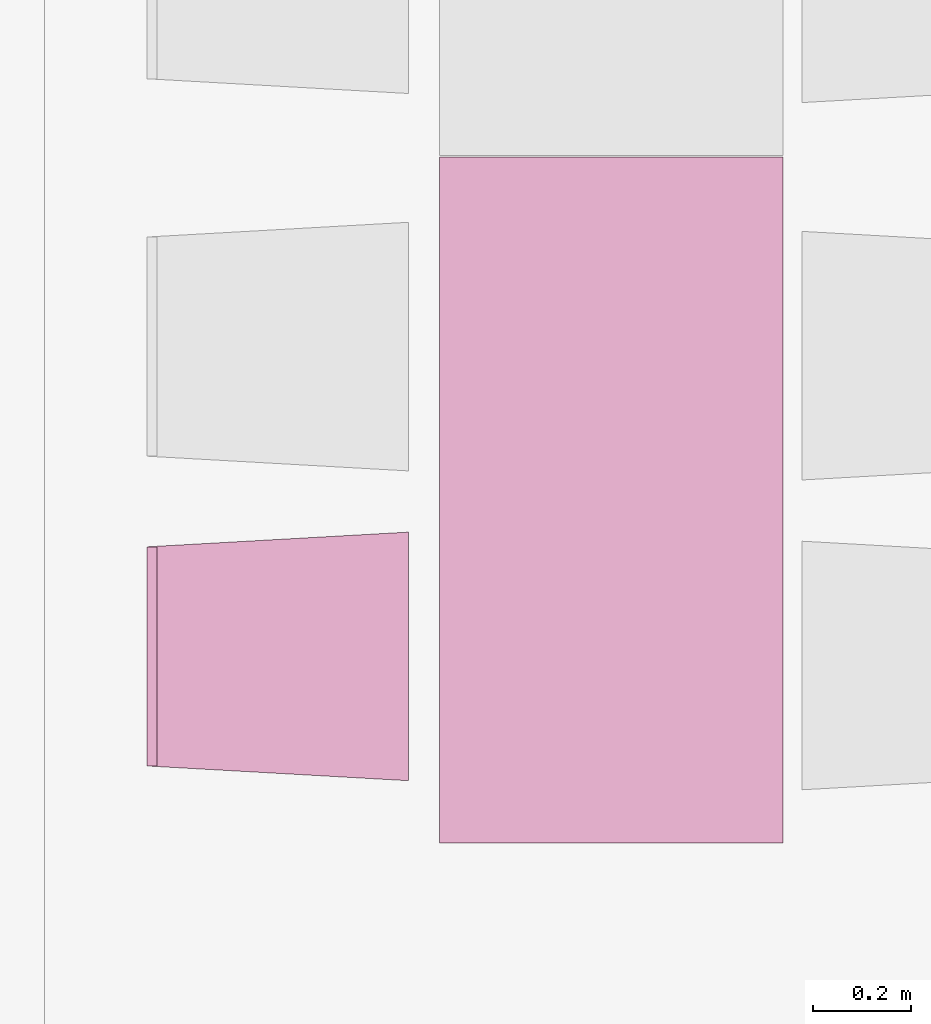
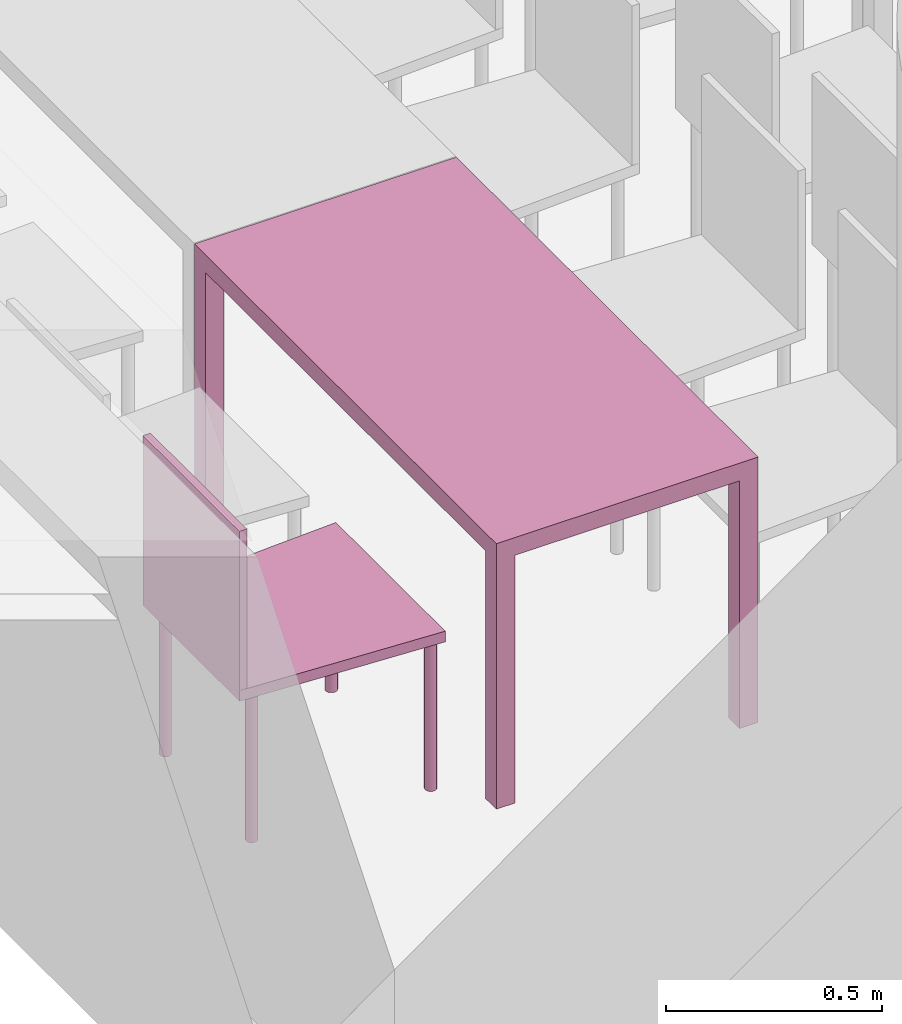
"""IFC4 building model written with IfcOpenShell, lengths in metres."""

from ifc_helpers import new_model, entity, si_unit, converted_unit, derived_unit, frame, origin, place, context, subcontext, project, spatial, faceted_brep, element, save


model = new_model("IFC4")

# Units and contexts
model_context = context("Model", 3, precision=1e-05, world=origin())
body_context = subcontext(model_context, "Body", "Model", "MODEL_VIEW")
ifc_project = project(units=[si_unit("LENGTHUNIT", "METRE"), si_unit("AREAUNIT", "SQUARE_METRE"), si_unit("VOLUMEUNIT", "CUBIC_METRE"), si_unit("MASSUNIT", "GRAM", prefix="KILO"), converted_unit("PLANEANGLEUNIT", "DEGREE", entity("IfcPlaneAngleMeasure", 0.0174532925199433), si_unit("PLANEANGLEUNIT", "RADIAN"), dimensions=[0, 0, 0, 0, 0, 0, 0]), derived_unit("THERMALTRANSMITTANCEUNIT", [(si_unit("POWERUNIT", "WATT"), 1), (si_unit("THERMODYNAMICTEMPERATUREUNIT", "KELVIN"), -1), (si_unit("LENGTHUNIT", "METRE"), -2)]), derived_unit("VOLUMETRICFLOWRATEUNIT", [(si_unit("LENGTHUNIT", "METRE"), 3), (converted_unit("TIMEUNIT", "hour", entity("IfcTimeMeasure", 3600.0), si_unit("TIMEUNIT", "SECOND"), dimensions=[0, 0, 1, 0, 0, 0, 0]), -1), (si_unit("LENGTHUNIT", "METRE"), -1)])], contexts=[model_context])

# Building, storeys
building_placement = place(None, origin())
building = spatial("IfcBuilding", under=ifc_project, at=building_placement, Name="HABITATGE PLURIFAMILIAR", CompositionType="ELEMENT")
storey_1_placement = place(building_placement, frame((0.0, 0.0, 3.35)))
storey_1 = spatial("IfcBuildingStorey", under=building, at=storey_1_placement, Name="PLANTA  ALTELL", CompositionType="ELEMENT", Elevation=3.35)
storey_2_placement = place(storey_1_placement, origin())
storey_2 = spatial("IfcBuildingStorey", under=storey_1, at=storey_2_placement, Name="NOU", CompositionType="PARTIAL")

# Furniture
furniture_1_placement = place(storey_2_placement, frame((399.981918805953, 14.1626455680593, 0.05)))
element("IfcFurniture", 1, at=furniture_1_placement, inside=storey_2, Name="Taula 140X80_PA", context=body_context, shape_type="Brep", body=[
    faceted_brep([(0.7, 0.0500000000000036, 0.0), (0.65, 0.0500000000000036, 0.0), (0.65, 0.0, 0.0), (0.7, 0.0, 0.0), (0.65, 0.0500000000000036, 0.7), (0.7, 0.0500000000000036, 0.7), (0.7, 0.0, 0.7), (0.65, 0.0, 0.7)], [[[0, 1, 2, 3]], [[4, 5, 6, 7]], [[1, 0, 5, 4]], [[2, 1, 4, 7]], [[3, 2, 7, 6]], [[0, 3, 6, 5]]], orient=[[False], [False], [False], [False], [False], [False]]),
    faceted_brep([(0.7, 1.39694592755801, 0.0), (0.65, 1.39694592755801, 0.0), (0.65, 1.34694592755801, 0.0), (0.7, 1.34694592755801, 0.0), (0.65, 1.39694592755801, 0.7), (0.7, 1.39694592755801, 0.7), (0.7, 1.34694592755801, 0.7), (0.65, 1.34694592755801, 0.7)], [[[0, 1, 2, 3]], [[4, 5, 6, 7]], [[1, 0, 5, 4]], [[2, 1, 4, 7]], [[3, 2, 7, 6]], [[0, 3, 6, 5]]], orient=[[False], [False], [False], [False], [False], [False]]),
    faceted_brep([(0.7, 1.396945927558, 0.7), (0.0, 1.396945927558, 0.7), (0.0, 0.0, 0.7), (0.7, 0.0, 0.7), (0.0, 1.396945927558, 0.75), (0.7, 1.396945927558, 0.75), (0.7, 0.0, 0.75), (0.0, 0.0, 0.75)], [[[0, 1, 2, 3]], [[4, 5, 6, 7]], [[1, 0, 5, 4]], [[2, 1, 4, 7]], [[3, 2, 7, 6]], [[0, 3, 6, 5]]], orient=[[False], [False], [False], [False], [False], [False]]),
    faceted_brep([(0.05, 0.05, 0.0), (0.0, 0.05, 0.0), (0.0, 0.0, 0.0), (0.05, 0.0, 0.0), (0.0, 0.05, 0.7), (0.05, 0.05, 0.7), (0.05, 0.0, 0.7), (0.0, 0.0, 0.7)], [[[0, 1, 2, 3]], [[4, 5, 6, 7]], [[1, 0, 5, 4]], [[2, 1, 4, 7]], [[3, 2, 7, 6]], [[0, 3, 6, 5]]], orient=[[False], [False], [False], [False], [False], [False]]),
    faceted_brep([(0.05, 1.396945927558, 0.0), (0.0, 1.396945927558, 0.0), (0.0, 1.346945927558, 0.0), (0.05, 1.346945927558, 0.0), (0.0, 1.396945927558, 0.7), (0.05, 1.396945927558, 0.7), (0.05, 1.346945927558, 0.7), (0.0, 1.346945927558, 0.7)], [[[0, 1, 2, 3]], [[4, 5, 6, 7]], [[1, 0, 5, 4]], [[2, 1, 4, 7]], [[3, 2, 7, 6]], [[0, 3, 6, 5]]], orient=[[False], [False], [False], [False], [False], [False]]),
])
furniture_2_placement = place(storey_2_placement, frame((399.386206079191, 14.2892329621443, 0.0499839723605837)))
element("IfcFurniture", 2, at=furniture_2_placement, inside=storey_2, Name="Cadira confident_PA", context=body_context, shape_type="Brep", body=[
    faceted_brep([(0.507575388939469, 0.0391636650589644, 0.0), (0.504980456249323, 0.0389479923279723, 0.0), (0.502462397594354, 0.0382849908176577, 0.0), (0.500097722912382, 0.0371948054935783, 0.0), (0.497958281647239, 0.0357105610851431, 0.0), (0.496109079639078, 0.0338773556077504, 0.0), (0.494606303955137, 0.0317508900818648, 0.0), (0.493495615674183, 0.0293957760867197, 0.0), (0.492810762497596, 0.0268835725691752, 0.0), (0.492572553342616, 0.0242906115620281, 0.0), (0.492788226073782, 0.0216956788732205, 0.0), (0.493451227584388, 0.019177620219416, 0.0), (0.494541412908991, 0.0168129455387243, 0.0), (0.496025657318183, 0.0146735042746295, 0.0), (0.497858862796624, 0.0128243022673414, 0.0), (0.499985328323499, 0.0113215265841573, 0.0), (0.502340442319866, 0.0102108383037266, 0.0), (0.504852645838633, 0.00952598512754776, 0.0), (0.507445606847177, 0.00928777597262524, 0.0), (0.510040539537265, 0.00950344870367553, 0.0), (0.512558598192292, 0.010166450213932, 0.0), (0.514923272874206, 0.0112566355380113, 0.0), (0.517062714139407, 0.0127408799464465, 0.0), (0.518911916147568, 0.0145740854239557, 0.0), (0.520414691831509, 0.0167005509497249, 0.0), (0.521525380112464, 0.0190556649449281, 0.0), (0.52221023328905, 0.0215678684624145, 0.0), (0.522448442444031, 0.0241608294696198, 0.0), (0.522232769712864, 0.0267557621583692, 0.0), (0.521569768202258, 0.0292738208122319, 0.0), (0.520479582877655, 0.0316384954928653, 0.0), (0.518995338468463, 0.0337779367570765, 0.0), (0.517162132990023, 0.0356271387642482, 0.0), (0.515035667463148, 0.0371299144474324, 0.0), (0.51268055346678, 0.038240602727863, 0.0), (0.510168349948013, 0.0389254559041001, 0.0), (0.507575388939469, 0.0391636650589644, 0.448281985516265), (0.510168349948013, 0.0389254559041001, 0.448281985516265), (0.51268055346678, 0.038240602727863, 0.448281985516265), (0.515035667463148, 0.0371299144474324, 0.448281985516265), (0.517162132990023, 0.0356271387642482, 0.448281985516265), (0.518995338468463, 0.0337779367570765, 0.448281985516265), (0.520479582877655, 0.0316384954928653, 0.448281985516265), (0.521569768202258, 0.0292738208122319, 0.448281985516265), (0.522232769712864, 0.0267557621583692, 0.448281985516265), (0.522448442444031, 0.0241608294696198, 0.448281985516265), (0.52221023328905, 0.0215678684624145, 0.448281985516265), (0.521525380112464, 0.0190556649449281, 0.448281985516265), (0.520414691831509, 0.0167005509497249, 0.448281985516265), (0.518911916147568, 0.0145740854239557, 0.448281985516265), (0.517062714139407, 0.0127408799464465, 0.448281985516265), (0.514923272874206, 0.0112566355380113, 0.448281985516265), (0.512558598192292, 0.010166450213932, 0.448281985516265), (0.510040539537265, 0.00950344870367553, 0.448281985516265), (0.507445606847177, 0.00928777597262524, 0.448281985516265), (0.504852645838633, 0.00952598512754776, 0.448281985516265), (0.502340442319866, 0.0102108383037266, 0.448281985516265), (0.499985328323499, 0.0113215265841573, 0.448281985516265), (0.497858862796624, 0.0128243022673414, 0.448281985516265), (0.496025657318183, 0.0146735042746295, 0.448281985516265), (0.494541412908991, 0.0168129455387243, 0.448281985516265), (0.493451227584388, 0.019177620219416, 0.448281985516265), (0.492788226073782, 0.0216956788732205, 0.448281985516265), (0.492572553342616, 0.0242906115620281, 0.448281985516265), (0.492810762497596, 0.0268835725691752, 0.448281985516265), (0.493495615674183, 0.0293957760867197, 0.448281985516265), (0.494606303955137, 0.0317508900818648, 0.448281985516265), (0.496109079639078, 0.0338773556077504, 0.448281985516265), (0.497958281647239, 0.0357105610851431, 0.448281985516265), (0.500097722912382, 0.0371948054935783, 0.448281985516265), (0.502462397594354, 0.0382849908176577, 0.448281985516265), (0.504980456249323, 0.0389479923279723, 0.448281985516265)], [[[0, 1, 2, 3, 4, 5, 6, 7, 8, 9, 10, 11, 12, 13, 14, 15, 16, 17, 18, 19, 20, 21, 22, 23, 24, 25, 26, 27, 28, 29, 30, 31, 32, 33, 34, 35]], [[36, 37, 38, 39, 40, 41, 42, 43, 44, 45, 46, 47, 48, 49, 50, 51, 52, 53, 54, 55, 56, 57, 58, 59, 60, 61, 62, 63, 64, 65, 66, 67, 68, 69, 70, 71]], [[1, 0, 36, 71]], [[2, 1, 71, 70]], [[3, 2, 70, 69]], [[4, 3, 69, 68]], [[5, 4, 68, 67]], [[6, 5, 67, 66]], [[7, 6, 66, 65]], [[8, 7, 65, 64]], [[9, 8, 64, 63]], [[10, 9, 63, 62]], [[11, 10, 62, 61]], [[12, 11, 61, 60]], [[13, 12, 60, 59]], [[14, 13, 59, 58]], [[15, 14, 58, 57]], [[16, 15, 57, 56]], [[17, 16, 56, 55]], [[18, 17, 55, 54]], [[19, 18, 54, 53]], [[20, 19, 53, 52]], [[21, 20, 52, 51]], [[22, 21, 51, 50]], [[23, 22, 50, 49]], [[24, 23, 49, 48]], [[25, 24, 48, 47]], [[26, 25, 47, 46]], [[27, 26, 46, 45]], [[28, 27, 45, 44]], [[29, 28, 44, 43]], [[30, 29, 43, 42]], [[31, 30, 42, 41]], [[32, 31, 41, 40]], [[33, 32, 40, 39]], [[34, 33, 39, 38]], [[35, 34, 38, 37]], [[0, 35, 37, 36]]], orient=[[False], [False], [False], [False], [False], [False], [False], [False], [False], [False], [False], [False], [False], [False], [False], [False], [False], [False], [False], [False], [False], [False], [False], [False], [False], [False], [False], [False], [False], [False], [False], [False], [False], [False], [False], [False], [False], [False]]),
    faceted_brep([(0.0451683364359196, 0.0668016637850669, 0.0), (0.0425734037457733, 0.0665859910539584, 0.0), (0.0400553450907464, 0.065922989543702, 0.0), (0.0376906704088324, 0.0648328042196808, 0.0), (0.0355512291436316, 0.0633485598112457, 0.0), (0.0337020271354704, 0.0615153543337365, 0.0), (0.0321992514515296, 0.0593888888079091, 0.0), (0.0310885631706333, 0.057033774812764, 0.0), (0.0304037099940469, 0.0545215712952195, 0.0), (0.030165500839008, 0.0519286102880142, 0.0), (0.0303811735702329, 0.0493336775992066, 0.0), (0.0310441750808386, 0.0468156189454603, 0.0), (0.0321343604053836, 0.0444509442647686, 0.0), (0.0336186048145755, 0.0423115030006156, 0.0), (0.035451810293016, 0.0404623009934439, 0.0), (0.0375782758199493, 0.0389595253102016, 0.0), (0.0399333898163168, 0.0378488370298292, 0.0), (0.0424455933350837, 0.0371639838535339, 0.0), (0.0450385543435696, 0.0369257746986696, 0.0), (0.0476334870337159, 0.0371414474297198, 0.0), (0.0501515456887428, 0.0378044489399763, 0.0), (0.0525162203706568, 0.0388946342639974, 0.0), (0.0546556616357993, 0.0403788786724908, 0.0), (0.0565048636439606, 0.0422120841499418, 0.0), (0.0580076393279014, 0.0443385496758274, 0.0), (0.0591183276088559, 0.0466936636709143, 0.0), (0.0598031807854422, 0.0492058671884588, 0.0), (0.060041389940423, 0.0517988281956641, 0.0), (0.0598257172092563, 0.0543937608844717, 0.0), (0.0591627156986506, 0.056911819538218, 0.0), (0.0580725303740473, 0.0592764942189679, 0.0), (0.0565882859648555, 0.0614159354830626, 0.0), (0.054755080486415, 0.0632651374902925, 0.0), (0.0526286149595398, 0.0647679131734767, 0.0), (0.0502735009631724, 0.0658786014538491, 0.0), (0.0477612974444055, 0.0665634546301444, 0.0), (0.0451683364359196, 0.0668016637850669, 0.448281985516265), (0.0477612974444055, 0.0665634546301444, 0.448281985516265), (0.0502735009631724, 0.0658786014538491, 0.448281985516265), (0.0526286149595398, 0.0647679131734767, 0.448281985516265), (0.054755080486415, 0.0632651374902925, 0.448281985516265), (0.0565882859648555, 0.0614159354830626, 0.448281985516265), (0.0580725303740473, 0.0592764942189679, 0.448281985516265), (0.0591627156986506, 0.056911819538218, 0.448281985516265), (0.0598257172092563, 0.0543937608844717, 0.448281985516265), (0.060041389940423, 0.0517988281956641, 0.448281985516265), (0.0598031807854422, 0.0492058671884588, 0.448281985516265), (0.0591183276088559, 0.0466936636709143, 0.448281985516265), (0.0580076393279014, 0.0443385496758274, 0.448281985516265), (0.0565048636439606, 0.0422120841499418, 0.448281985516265), (0.0546556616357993, 0.0403788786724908, 0.448281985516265), (0.0525162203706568, 0.0388946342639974, 0.448281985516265), (0.0501515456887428, 0.0378044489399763, 0.448281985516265), (0.0476334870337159, 0.0371414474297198, 0.448281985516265), (0.0450385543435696, 0.0369257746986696, 0.448281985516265), (0.0424455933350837, 0.0371639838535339, 0.448281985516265), (0.0399333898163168, 0.0378488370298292, 0.448281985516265), (0.0375782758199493, 0.0389595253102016, 0.448281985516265), (0.035451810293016, 0.0404623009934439, 0.448281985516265), (0.0336186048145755, 0.0423115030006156, 0.448281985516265), (0.0321343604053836, 0.0444509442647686, 0.448281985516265), (0.0310441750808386, 0.0468156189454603, 0.448281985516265), (0.0303811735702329, 0.0493336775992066, 0.448281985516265), (0.030165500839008, 0.0519286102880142, 0.448281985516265), (0.0304037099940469, 0.0545215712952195, 0.448281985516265), (0.0310885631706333, 0.057033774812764, 0.448281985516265), (0.0321992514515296, 0.0593888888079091, 0.448281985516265), (0.0337020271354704, 0.0615153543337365, 0.448281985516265), (0.0355512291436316, 0.0633485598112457, 0.448281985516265), (0.0376906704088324, 0.0648328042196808, 0.448281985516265), (0.0400553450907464, 0.065922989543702, 0.448281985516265), (0.0425734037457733, 0.0665859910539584, 0.448281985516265)], [[[0, 1, 2, 3, 4, 5, 6, 7, 8, 9, 10, 11, 12, 13, 14, 15, 16, 17, 18, 19, 20, 21, 22, 23, 24, 25, 26, 27, 28, 29, 30, 31, 32, 33, 34, 35]], [[36, 37, 38, 39, 40, 41, 42, 43, 44, 45, 46, 47, 48, 49, 50, 51, 52, 53, 54, 55, 56, 57, 58, 59, 60, 61, 62, 63, 64, 65, 66, 67, 68, 69, 70, 71]], [[1, 0, 36, 71]], [[2, 1, 71, 70]], [[3, 2, 70, 69]], [[4, 3, 69, 68]], [[5, 4, 68, 67]], [[6, 5, 67, 66]], [[7, 6, 66, 65]], [[8, 7, 65, 64]], [[9, 8, 64, 63]], [[10, 9, 63, 62]], [[11, 10, 62, 61]], [[12, 11, 61, 60]], [[13, 12, 60, 59]], [[14, 13, 59, 58]], [[15, 14, 58, 57]], [[16, 15, 57, 56]], [[17, 16, 56, 55]], [[18, 17, 55, 54]], [[19, 18, 54, 53]], [[20, 19, 53, 52]], [[21, 20, 52, 51]], [[22, 21, 51, 50]], [[23, 22, 50, 49]], [[24, 23, 49, 48]], [[25, 24, 48, 47]], [[26, 25, 47, 46]], [[27, 26, 46, 45]], [[28, 27, 45, 44]], [[29, 28, 44, 43]], [[30, 29, 43, 42]], [[31, 30, 42, 41]], [[32, 31, 41, 40]], [[33, 32, 40, 39]], [[34, 33, 39, 38]], [[35, 34, 38, 37]], [[0, 35, 37, 36]]], orient=[[False], [False], [False], [False], [False], [False], [False], [False], [False], [False], [False], [False], [False], [False], [False], [False], [False], [False], [False], [False], [False], [False], [False], [False], [False], [False], [False], [False], [False], [False], [False], [False], [False], [False], [False], [False], [False], [False]]),
    faceted_brep([(0.50757538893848, 0.499163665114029, 0.0), (0.504980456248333, 0.49894799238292, 0.0), (0.502462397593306, 0.498284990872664, 0.0), (0.500097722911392, 0.497194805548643, 0.0), (0.49795828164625, 0.495710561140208, 0.0), (0.49610907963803, 0.493877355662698, 0.0), (0.494606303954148, 0.491750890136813, 0.0), (0.493495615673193, 0.489395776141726, 0.0), (0.492810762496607, 0.486883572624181, 0.0), (0.492572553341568, 0.484290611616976, 0.0), (0.492788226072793, 0.481695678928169, 0.0), (0.493451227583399, 0.479177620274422, 0.0), (0.494541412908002, 0.476812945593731, 0.0), (0.496025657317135, 0.474673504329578, 0.0), (0.497858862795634, 0.472824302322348, 0.0), (0.499985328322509, 0.471321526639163, 0.0), (0.502340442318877, 0.470210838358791, 0.0), (0.504852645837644, 0.469525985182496, 0.0), (0.507445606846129, 0.469287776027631, 0.0), (0.510040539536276, 0.469503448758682, 0.0), (0.512558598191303, 0.470166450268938, 0.0), (0.514923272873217, 0.471256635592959, 0.0), (0.517062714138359, 0.472740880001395, 0.0), (0.518911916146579, 0.474574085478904, 0.0), (0.520414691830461, 0.476700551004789, 0.0), (0.521525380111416, 0.479055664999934, 0.0), (0.522210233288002, 0.481567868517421, 0.0), (0.522448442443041, 0.484160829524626, 0.0), (0.522232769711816, 0.486755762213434, 0.0), (0.521569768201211, 0.489273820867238, 0.0), (0.520479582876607, 0.491638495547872, 0.0), (0.518995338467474, 0.493777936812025, 0.0), (0.517162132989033, 0.495627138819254, 0.0), (0.5150356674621, 0.497129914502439, 0.0), (0.512680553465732, 0.498240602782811, 0.0), (0.510168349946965, 0.498925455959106, 0.0), (0.50757538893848, 0.499163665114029, 0.448281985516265), (0.510168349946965, 0.498925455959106, 0.448281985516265), (0.512680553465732, 0.498240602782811, 0.448281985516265), (0.5150356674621, 0.497129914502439, 0.448281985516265), (0.517162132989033, 0.495627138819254, 0.448281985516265), (0.518995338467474, 0.493777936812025, 0.448281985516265), (0.520479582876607, 0.491638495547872, 0.448281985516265), (0.521569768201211, 0.489273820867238, 0.448281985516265), (0.522232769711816, 0.486755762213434, 0.448281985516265), (0.522448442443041, 0.484160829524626, 0.448281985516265), (0.522210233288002, 0.481567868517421, 0.448281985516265), (0.521525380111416, 0.479055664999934, 0.448281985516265), (0.520414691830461, 0.476700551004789, 0.448281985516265), (0.518911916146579, 0.474574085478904, 0.448281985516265), (0.517062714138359, 0.472740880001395, 0.448281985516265), (0.514923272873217, 0.471256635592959, 0.448281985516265), (0.512558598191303, 0.470166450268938, 0.448281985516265), (0.510040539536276, 0.469503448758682, 0.448281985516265), (0.507445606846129, 0.469287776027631, 0.448281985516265), (0.504852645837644, 0.469525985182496, 0.448281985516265), (0.502340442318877, 0.470210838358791, 0.448281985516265), (0.499985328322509, 0.471321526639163, 0.448281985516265), (0.497858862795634, 0.472824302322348, 0.448281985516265), (0.496025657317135, 0.474673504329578, 0.448281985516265), (0.494541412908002, 0.476812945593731, 0.448281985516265), (0.493451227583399, 0.479177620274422, 0.448281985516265), (0.492788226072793, 0.481695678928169, 0.448281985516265), (0.492572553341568, 0.484290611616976, 0.448281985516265), (0.492810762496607, 0.486883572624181, 0.448281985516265), (0.493495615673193, 0.489395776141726, 0.448281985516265), (0.494606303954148, 0.491750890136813, 0.448281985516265), (0.49610907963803, 0.493877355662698, 0.448281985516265), (0.49795828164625, 0.495710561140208, 0.448281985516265), (0.500097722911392, 0.497194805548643, 0.448281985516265), (0.502462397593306, 0.498284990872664, 0.448281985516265), (0.504980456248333, 0.49894799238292, 0.448281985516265)], [[[0, 1, 2, 3, 4, 5, 6, 7, 8, 9, 10, 11, 12, 13, 14, 15, 16, 17, 18, 19, 20, 21, 22, 23, 24, 25, 26, 27, 28, 29, 30, 31, 32, 33, 34, 35]], [[36, 37, 38, 39, 40, 41, 42, 43, 44, 45, 46, 47, 48, 49, 50, 51, 52, 53, 54, 55, 56, 57, 58, 59, 60, 61, 62, 63, 64, 65, 66, 67, 68, 69, 70, 71]], [[1, 0, 36, 71]], [[2, 1, 71, 70]], [[3, 2, 70, 69]], [[4, 3, 69, 68]], [[5, 4, 68, 67]], [[6, 5, 67, 66]], [[7, 6, 66, 65]], [[8, 7, 65, 64]], [[9, 8, 64, 63]], [[10, 9, 63, 62]], [[11, 10, 62, 61]], [[12, 11, 61, 60]], [[13, 12, 60, 59]], [[14, 13, 59, 58]], [[15, 14, 58, 57]], [[16, 15, 57, 56]], [[17, 16, 56, 55]], [[18, 17, 55, 54]], [[19, 18, 54, 53]], [[20, 19, 53, 52]], [[21, 20, 52, 51]], [[22, 21, 51, 50]], [[23, 22, 50, 49]], [[24, 23, 49, 48]], [[25, 24, 48, 47]], [[26, 25, 47, 46]], [[27, 26, 46, 45]], [[28, 27, 45, 44]], [[29, 28, 44, 43]], [[30, 29, 43, 42]], [[31, 30, 42, 41]], [[32, 31, 41, 40]], [[33, 32, 40, 39]], [[34, 33, 39, 38]], [[35, 34, 38, 37]], [[0, 35, 37, 36]]], orient=[[False], [False], [False], [False], [False], [False], [False], [False], [False], [False], [False], [False], [False], [False], [False], [False], [False], [False], [False], [False], [False], [False], [False], [False], [False], [False], [False], [False], [False], [False], [False], [False], [False], [False], [False], [False], [False], [False]]),
    faceted_brep([(0.0451683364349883, 0.466801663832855, 0.0), (0.0425734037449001, 0.466585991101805, 0.0), (0.0400553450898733, 0.465922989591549, 0.0), (0.0376906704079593, 0.464832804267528, 0.0), (0.0355512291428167, 0.463348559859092, 0.0), (0.0337020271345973, 0.461515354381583, 0.0), (0.0321992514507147, 0.459388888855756, 0.0), (0.0310885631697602, 0.457033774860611, 0.0), (0.0304037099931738, 0.454521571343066, 0.0), (0.0301655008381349, 0.451928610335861, 0.0), (0.0303811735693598, 0.449333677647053, 0.0), (0.0310441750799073, 0.446815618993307, 0.0), (0.0321343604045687, 0.444450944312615, 0.0), (0.0336186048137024, 0.442311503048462, 0.0), (0.0354518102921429, 0.440462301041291, 0.0), (0.0375782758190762, 0.438959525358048, 0.0), (0.0399333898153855, 0.437848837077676, 0.0), (0.0424455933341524, 0.437163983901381, 0.0), (0.0450385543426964, 0.436925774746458, 0.0), (0.0476334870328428, 0.437141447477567, 0.0), (0.0501515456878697, 0.437804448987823, 0.0), (0.0525162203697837, 0.438894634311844, 0.0), (0.0546556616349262, 0.440378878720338, 0.0), (0.0565048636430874, 0.442212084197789, 0.0), (0.0580076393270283, 0.444338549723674, 0.0), (0.0591183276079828, 0.446693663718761, 0.0), (0.0598031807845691, 0.449205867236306, 0.0), (0.0600413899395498, 0.451798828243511, 0.0), (0.0598257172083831, 0.454393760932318, 0.0), (0.0591627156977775, 0.456911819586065, 0.0), (0.0580725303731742, 0.459276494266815, 0.0), (0.0565882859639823, 0.461415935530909, 0.0), (0.0547550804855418, 0.463265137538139, 0.0), (0.0526286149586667, 0.464767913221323, 0.0), (0.0502735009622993, 0.465878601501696, 0.0), (0.0477612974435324, 0.466563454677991, 0.0), (0.0451683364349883, 0.466801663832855, 0.448281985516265), (0.0477612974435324, 0.466563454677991, 0.448281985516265), (0.0502735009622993, 0.465878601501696, 0.448281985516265), (0.0526286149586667, 0.464767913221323, 0.448281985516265), (0.0547550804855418, 0.463265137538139, 0.448281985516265), (0.0565882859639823, 0.461415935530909, 0.448281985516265), (0.0580725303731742, 0.459276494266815, 0.448281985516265), (0.0591627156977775, 0.456911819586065, 0.448281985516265), (0.0598257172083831, 0.454393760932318, 0.448281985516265), (0.0600413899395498, 0.451798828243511, 0.448281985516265), (0.0598031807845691, 0.449205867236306, 0.448281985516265), (0.0591183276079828, 0.446693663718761, 0.448281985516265), (0.0580076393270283, 0.444338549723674, 0.448281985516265), (0.0565048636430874, 0.442212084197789, 0.448281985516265), (0.0546556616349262, 0.440378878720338, 0.448281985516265), (0.0525162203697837, 0.438894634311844, 0.448281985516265), (0.0501515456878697, 0.437804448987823, 0.448281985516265), (0.0476334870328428, 0.437141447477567, 0.448281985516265), (0.0450385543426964, 0.436925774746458, 0.448281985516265), (0.0424455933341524, 0.437163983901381, 0.448281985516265), (0.0399333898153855, 0.437848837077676, 0.448281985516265), (0.0375782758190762, 0.438959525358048, 0.448281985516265), (0.0354518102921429, 0.440462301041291, 0.448281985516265), (0.0336186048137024, 0.442311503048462, 0.448281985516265), (0.0321343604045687, 0.444450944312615, 0.448281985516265), (0.0310441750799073, 0.446815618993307, 0.448281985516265), (0.0303811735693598, 0.449333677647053, 0.448281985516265), (0.0301655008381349, 0.451928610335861, 0.448281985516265), (0.0304037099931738, 0.454521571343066, 0.448281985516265), (0.0310885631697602, 0.457033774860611, 0.448281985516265), (0.0321992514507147, 0.459388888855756, 0.448281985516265), (0.0337020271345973, 0.461515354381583, 0.448281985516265), (0.0355512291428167, 0.463348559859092, 0.448281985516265), (0.0376906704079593, 0.464832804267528, 0.448281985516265), (0.0400553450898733, 0.465922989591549, 0.448281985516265), (0.0425734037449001, 0.466585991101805, 0.448281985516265)], [[[0, 1, 2, 3, 4, 5, 6, 7, 8, 9, 10, 11, 12, 13, 14, 15, 16, 17, 18, 19, 20, 21, 22, 23, 24, 25, 26, 27, 28, 29, 30, 31, 32, 33, 34, 35]], [[36, 37, 38, 39, 40, 41, 42, 43, 44, 45, 46, 47, 48, 49, 50, 51, 52, 53, 54, 55, 56, 57, 58, 59, 60, 61, 62, 63, 64, 65, 66, 67, 68, 69, 70, 71]], [[1, 0, 36, 71]], [[2, 1, 71, 70]], [[3, 2, 70, 69]], [[4, 3, 69, 68]], [[5, 4, 68, 67]], [[6, 5, 67, 66]], [[7, 6, 66, 65]], [[8, 7, 65, 64]], [[9, 8, 64, 63]], [[10, 9, 63, 62]], [[11, 10, 62, 61]], [[12, 11, 61, 60]], [[13, 12, 60, 59]], [[14, 13, 59, 58]], [[15, 14, 58, 57]], [[16, 15, 57, 56]], [[17, 16, 56, 55]], [[18, 17, 55, 54]], [[19, 18, 54, 53]], [[20, 19, 53, 52]], [[21, 20, 52, 51]], [[22, 21, 51, 50]], [[23, 22, 50, 49]], [[24, 23, 49, 48]], [[25, 24, 48, 47]], [[26, 25, 47, 46]], [[27, 26, 46, 45]], [[28, 27, 45, 44]], [[29, 28, 44, 43]], [[30, 29, 43, 42]], [[31, 30, 42, 41]], [[32, 31, 41, 40]], [[33, 32, 40, 39]], [[34, 33, 39, 38]], [[35, 34, 38, 37]], [[0, 35, 37, 36]]], orient=[[False], [False], [False], [False], [False], [False], [False], [False], [False], [False], [False], [False], [False], [False], [False], [False], [False], [False], [False], [False], [False], [False], [False], [False], [False], [False], [False], [False], [False], [False], [False], [False], [False], [False], [False], [False], [False], [False]]),
    faceted_brep([(0.0, 0.476514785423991, 0.418281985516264), (0.0, 0.0300000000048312, 0.418281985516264), (0.532607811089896, 0.0, 0.418281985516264), (0.532607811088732, 0.506514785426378, 0.418281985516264), (0.532607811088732, 0.506514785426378, 0.448281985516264), (0.532607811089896, 0.0, 0.448281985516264), (0.0, 0.0300000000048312, 0.448281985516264), (0.0, 0.476514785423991, 0.448281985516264)], [[[0, 1, 2, 3]], [[4, 5, 6, 7]], [[3, 4, 7, 0]], [[2, 5, 4, 3]], [[1, 6, 5, 2]], [[0, 7, 6, 1]]], orient=[[False], [False], [False], [False], [False], [False]]),
    faceted_brep([(0.0200000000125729, 0.476514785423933, 0.448281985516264), (0.0, 0.476514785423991, 0.448281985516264), (0.0, 0.0300000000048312, 0.448281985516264), (0.0200000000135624, 0.0300000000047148, 0.448281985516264), (0.0200000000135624, 0.0300000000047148, 0.898281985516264), (0.0, 0.0300000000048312, 0.898281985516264), (0.0, 0.476514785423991, 0.898281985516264), (0.0200000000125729, 0.476514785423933, 0.898281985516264)], [[[0, 1, 2, 3]], [[4, 5, 6, 7]], [[3, 4, 7, 0]], [[2, 5, 4, 3]], [[1, 6, 5, 2]], [[0, 7, 6, 1]]], orient=[[False], [False], [False], [False], [False], [False]]),
])

save(model, "model.ifc")
